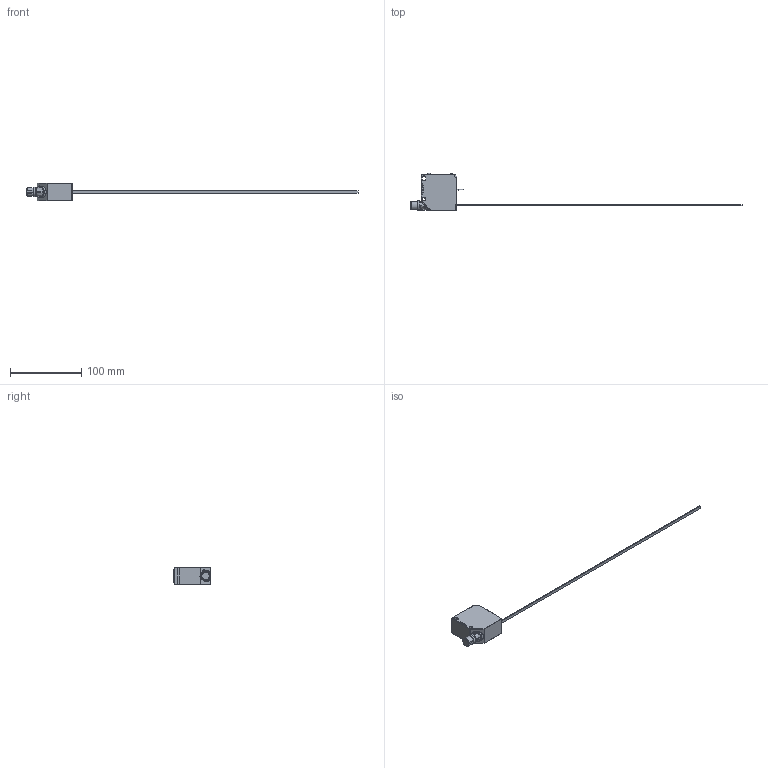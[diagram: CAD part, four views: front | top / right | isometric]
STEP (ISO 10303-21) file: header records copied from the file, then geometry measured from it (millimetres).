
FILE_DESCRIPTION(/* description */ (''),/* implementation_level */ '2;1');
FILE_NAME(/* name */ '624-41002_FT 55-RLAM-320-PNSUIDL-L5M.stp',/* time_stamp */ '2023-12-15T09:29:14+01:00',/* author */ ('Sandra.Stahl'),/* organization */ (''),/* preprocessor_version */ 'ST-DEVELOPER v19.2',/* originating_system */ 'Autodesk Inventor 2023',/* authorisation */ '');
FILE_SCHEMA (('AUTOMOTIVE_DESIGN { 1 0 10303 214 3 1 1 }'));
Length unit declared in the file: millimetre
Products named in the file (1): GH-ENG-0044043_Vereinfachen_1
Bounding box: 464.52 x 52.11 x 25 mm (x, y, z)
Volume: 63158.9 mm3; surface area: 15963.7 mm2
Topology: 4 solids, 4 shells, 252 faces, 611 edges, 382 vertices
Faces by surface type: plane 93, cylinder 49, cone 42, bspline 30, sphere 20, torus 18
Full cylindrical faces by diameter (mm): 1 x1, 4.1 x3, 8.9 x1, 13 x1, 15.5 x1
Entity records: 9374 total; most frequent: CARTESIAN_POINT 3341, ORIENTED_EDGE 1218, DIRECTION 1147, EDGE_CURVE 609, AXIS2_PLACEMENT_3D 446, VERTEX_POINT 381, EDGE_LOOP 272, STYLED_ITEM 256
